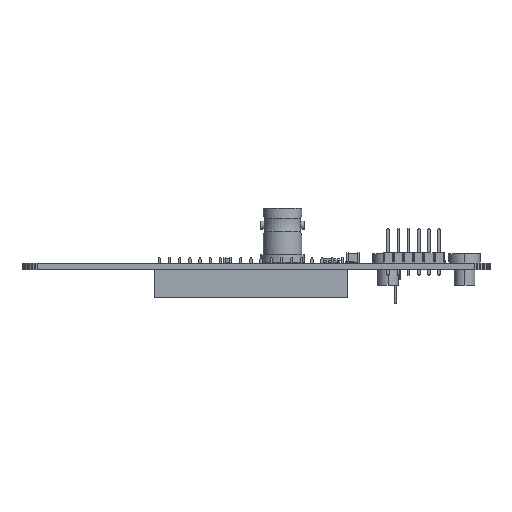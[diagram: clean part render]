
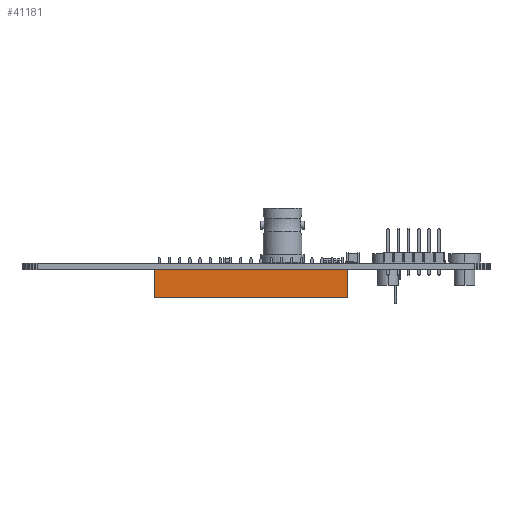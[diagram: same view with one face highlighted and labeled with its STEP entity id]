
A CAD part, left-side view. The second image highlights one B-rep face of the part: STEP entity #41181.
In plain terms, the highlighted planar face has unit normal (-1, 0, 0) as drawn and (1, 0, 0) by its records, which use the part's own axes.
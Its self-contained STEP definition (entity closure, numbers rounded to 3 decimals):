
#41181 = ADVANCED_FACE('',(#41182),#41196,.F.);
#41182 = FACE_BOUND('',#41183,.F.);
#41183 = EDGE_LOOP('',(#41184,#41219,#41247,#41275));
#41184 = ORIENTED_EDGE('',*,*,#41185,.T.);
#41185 = EDGE_CURVE('',#41186,#41188,#41190,.T.);
#41186 = VERTEX_POINT('',#41187);
#41187 = CARTESIAN_POINT('',(1.27,-46.99,0.));
#41188 = VERTEX_POINT('',#41189);
#41189 = CARTESIAN_POINT('',(1.27,-46.99,7.));
#41190 = SURFACE_CURVE('',#41191,(#41195,#41207),.PCURVE_S1.);
#41191 = LINE('',#41192,#41193);
#41192 = CARTESIAN_POINT('',(1.27,-46.99,0.));
#41193 = VECTOR('',#41194,1.);
#41194 = DIRECTION('',(0.,0.,1.));
#41195 = PCURVE('',#41196,#41201);
#41196 = PLANE('',#41197);
#41197 = AXIS2_PLACEMENT_3D('',#41198,#41199,#41200);
#41198 = CARTESIAN_POINT('',(1.27,-46.99,0.));
#41199 = DIRECTION('',(-1.,0.,0.));
#41200 = DIRECTION('',(0.,1.,0.));
#41201 = DEFINITIONAL_REPRESENTATION('',(#41202),#41206);
#41202 = LINE('',#41203,#41204);
#41203 = CARTESIAN_POINT('',(0.,0.));
#41204 = VECTOR('',#41205,1.);
#41205 = DIRECTION('',(0.,-1.));
#41206 = ( GEOMETRIC_REPRESENTATION_CONTEXT(2) 
PARAMETRIC_REPRESENTATION_CONTEXT() REPRESENTATION_CONTEXT('2D SPACE',''
  ) );
#41207 = PCURVE('',#41208,#41213);
#41208 = PLANE('',#41209);
#41209 = AXIS2_PLACEMENT_3D('',#41210,#41211,#41212);
#41210 = CARTESIAN_POINT('',(-3.81,-46.99,0.));
#41211 = DIRECTION('',(0.,1.,0.));
#41212 = DIRECTION('',(1.,0.,0.));
#41213 = DEFINITIONAL_REPRESENTATION('',(#41214),#41218);
#41214 = LINE('',#41215,#41216);
#41215 = CARTESIAN_POINT('',(5.08,0.));
#41216 = VECTOR('',#41217,1.);
#41217 = DIRECTION('',(0.,-1.));
#41218 = ( GEOMETRIC_REPRESENTATION_CONTEXT(2) 
PARAMETRIC_REPRESENTATION_CONTEXT() REPRESENTATION_CONTEXT('2D SPACE',''
  ) );
#41219 = ORIENTED_EDGE('',*,*,#41220,.T.);
#41220 = EDGE_CURVE('',#41188,#41221,#41223,.T.);
#41221 = VERTEX_POINT('',#41222);
#41222 = CARTESIAN_POINT('',(1.27,1.27,7.));
#41223 = SURFACE_CURVE('',#41224,(#41228,#41235),.PCURVE_S1.);
#41224 = LINE('',#41225,#41226);
#41225 = CARTESIAN_POINT('',(1.27,-46.99,7.));
#41226 = VECTOR('',#41227,1.);
#41227 = DIRECTION('',(0.,1.,0.));
#41228 = PCURVE('',#41196,#41229);
#41229 = DEFINITIONAL_REPRESENTATION('',(#41230),#41234);
#41230 = LINE('',#41231,#41232);
#41231 = CARTESIAN_POINT('',(0.,-7.));
#41232 = VECTOR('',#41233,1.);
#41233 = DIRECTION('',(1.,0.));
#41234 = ( GEOMETRIC_REPRESENTATION_CONTEXT(2) 
PARAMETRIC_REPRESENTATION_CONTEXT() REPRESENTATION_CONTEXT('2D SPACE',''
  ) );
#41235 = PCURVE('',#41236,#41241);
#41236 = PLANE('',#41237);
#41237 = AXIS2_PLACEMENT_3D('',#41238,#41239,#41240);
#41238 = CARTESIAN_POINT('',(1.27,-46.99,7.));
#41239 = DIRECTION('',(-0.,0.,-1.));
#41240 = DIRECTION('',(0.,-1.,-0.));
#41241 = DEFINITIONAL_REPRESENTATION('',(#41242),#41246);
#41242 = LINE('',#41243,#41244);
#41243 = CARTESIAN_POINT('',(0.,0.));
#41244 = VECTOR('',#41245,1.);
#41245 = DIRECTION('',(-1.,0.));
#41246 = ( GEOMETRIC_REPRESENTATION_CONTEXT(2) 
PARAMETRIC_REPRESENTATION_CONTEXT() REPRESENTATION_CONTEXT('2D SPACE',''
  ) );
#41247 = ORIENTED_EDGE('',*,*,#41248,.F.);
#41248 = EDGE_CURVE('',#41249,#41221,#41251,.T.);
#41249 = VERTEX_POINT('',#41250);
#41250 = CARTESIAN_POINT('',(1.27,1.27,0.));
#41251 = SURFACE_CURVE('',#41252,(#41256,#41263),.PCURVE_S1.);
#41252 = LINE('',#41253,#41254);
#41253 = CARTESIAN_POINT('',(1.27,1.27,0.));
#41254 = VECTOR('',#41255,1.);
#41255 = DIRECTION('',(0.,0.,1.));
#41256 = PCURVE('',#41196,#41257);
#41257 = DEFINITIONAL_REPRESENTATION('',(#41258),#41262);
#41258 = LINE('',#41259,#41260);
#41259 = CARTESIAN_POINT('',(48.26,0.));
#41260 = VECTOR('',#41261,1.);
#41261 = DIRECTION('',(0.,-1.));
#41262 = ( GEOMETRIC_REPRESENTATION_CONTEXT(2) 
PARAMETRIC_REPRESENTATION_CONTEXT() REPRESENTATION_CONTEXT('2D SPACE',''
  ) );
#41263 = PCURVE('',#41264,#41269);
#41264 = PLANE('',#41265);
#41265 = AXIS2_PLACEMENT_3D('',#41266,#41267,#41268);
#41266 = CARTESIAN_POINT('',(1.27,1.27,0.));
#41267 = DIRECTION('',(0.,-1.,0.));
#41268 = DIRECTION('',(-1.,0.,0.));
#41269 = DEFINITIONAL_REPRESENTATION('',(#41270),#41274);
#41270 = LINE('',#41271,#41272);
#41271 = CARTESIAN_POINT('',(0.,0.));
#41272 = VECTOR('',#41273,1.);
#41273 = DIRECTION('',(0.,-1.));
#41274 = ( GEOMETRIC_REPRESENTATION_CONTEXT(2) 
PARAMETRIC_REPRESENTATION_CONTEXT() REPRESENTATION_CONTEXT('2D SPACE',''
  ) );
#41275 = ORIENTED_EDGE('',*,*,#41276,.F.);
#41276 = EDGE_CURVE('',#41186,#41249,#41277,.T.);
#41277 = SURFACE_CURVE('',#41278,(#41282,#41289),.PCURVE_S1.);
#41278 = LINE('',#41279,#41280);
#41279 = CARTESIAN_POINT('',(1.27,-46.99,0.));
#41280 = VECTOR('',#41281,1.);
#41281 = DIRECTION('',(0.,1.,0.));
#41282 = PCURVE('',#41196,#41283);
#41283 = DEFINITIONAL_REPRESENTATION('',(#41284),#41288);
#41284 = LINE('',#41285,#41286);
#41285 = CARTESIAN_POINT('',(0.,0.));
#41286 = VECTOR('',#41287,1.);
#41287 = DIRECTION('',(1.,0.));
#41288 = ( GEOMETRIC_REPRESENTATION_CONTEXT(2) 
PARAMETRIC_REPRESENTATION_CONTEXT() REPRESENTATION_CONTEXT('2D SPACE',''
  ) );
#41289 = PCURVE('',#41290,#41295);
#41290 = PLANE('',#41291);
#41291 = AXIS2_PLACEMENT_3D('',#41292,#41293,#41294);
#41292 = CARTESIAN_POINT('',(1.27,-46.99,0.));
#41293 = DIRECTION('',(-0.,0.,-1.));
#41294 = DIRECTION('',(0.,-1.,-0.));
#41295 = DEFINITIONAL_REPRESENTATION('',(#41296),#41300);
#41296 = LINE('',#41297,#41298);
#41297 = CARTESIAN_POINT('',(0.,0.));
#41298 = VECTOR('',#41299,1.);
#41299 = DIRECTION('',(-1.,0.));
#41300 = ( GEOMETRIC_REPRESENTATION_CONTEXT(2) 
PARAMETRIC_REPRESENTATION_CONTEXT() REPRESENTATION_CONTEXT('2D SPACE',''
  ) );
